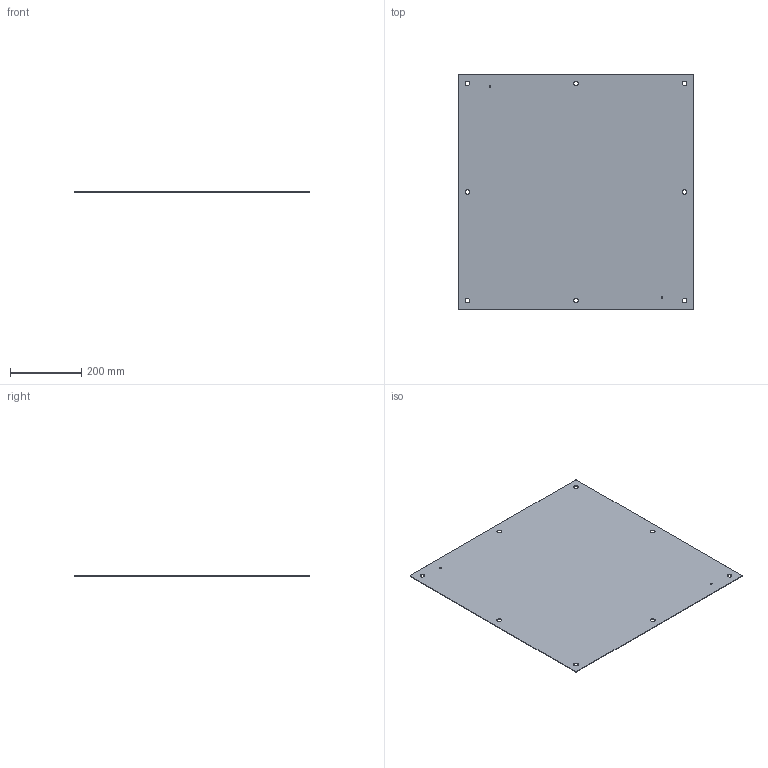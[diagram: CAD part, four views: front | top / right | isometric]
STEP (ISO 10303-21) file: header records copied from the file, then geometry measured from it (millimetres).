
FILE_DESCRIPTION(/* description */ ('1100MCDD 30" x 30" Inner Panel'),/* implementation_level */ '2;1');
FILE_NAME(/* name */ 'C:\Vault_Workspace\Inventor_Dwg\BoxCad\Result\1100MCDD303012\e-mail\3D\1100MCDD303012IP.stp',/* time_stamp */ '2023-03-29T14:08:43-04:00',/* author */ ('BoxCad'),/* organization */ (''),/* preprocessor_version */ 'ST-DEVELOPER v18.1',/* originating_system */ 'Autodesk Inventor 2020',/* authorisation */ '');
FILE_SCHEMA (('AUTOMOTIVE_DESIGN { 1 0 10303 214 3 1 1 }'));
Length unit declared in the file: inch
Products named in the file (3): 1100MCDD303012IP; 1100MCDD303012IP-P; STK-P-02400S
Assembly tree (2 placements, depth 2):
  1100MCDD303012IP
    1100MCDD303012IP-P
    STK-P-02400S
Bounding box: 660.4 x 660.4 x 1.73 mm (x, y, z)
Volume: 751460.4 mm3; surface area: 875301.9 mm2
Topology: 1 solids, 1 shells, 20 faces, 54 edges, 36 vertices
Faces by surface type: cylinder 14, plane 6
Full cylindrical faces by diameter (mm): 4.496 x2, 12.7 x8
Entity records: 801 total; most frequent: DIRECTION 132, CARTESIAN_POINT 115, ORIENTED_EDGE 108, EDGE_CURVE 54, AXIS2_PLACEMENT_3D 53, EDGE_LOOP 40, VERTEX_POINT 36, CIRCLE 28
